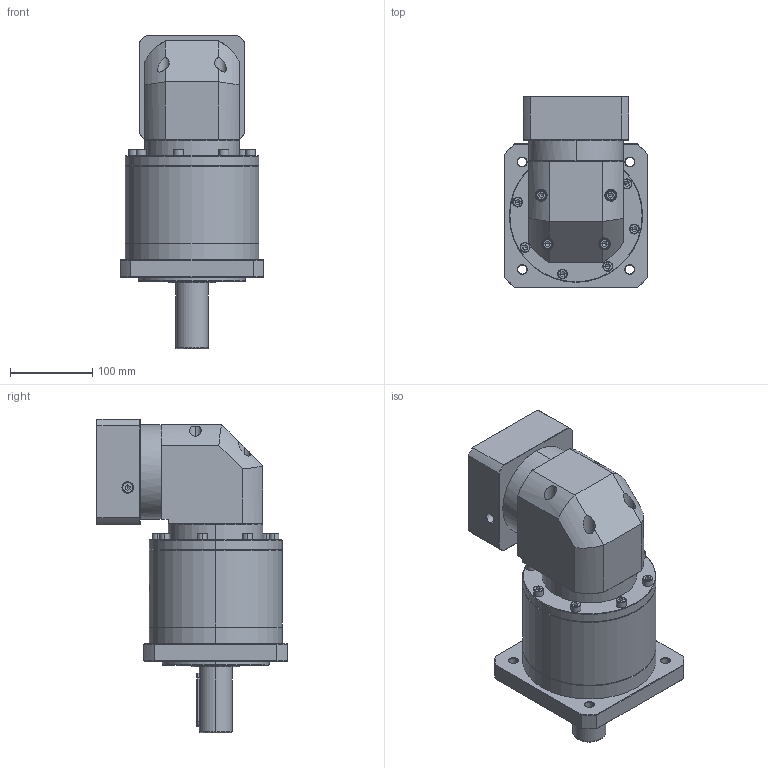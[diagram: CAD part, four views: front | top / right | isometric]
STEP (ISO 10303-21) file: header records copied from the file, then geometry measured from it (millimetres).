
FILE_DESCRIPTION (( 'STEP AP214' ), '1' );
FILE_NAME ('ZFR160A-D40-L3-P2-28-110-145-M8.step', '2023-09-03T09:43:01', ( '' ), ( '' ), 'SwSTEP 2.0', 'SolidWorks 2016', '' );
FILE_SCHEMA (( 'AUTOMOTIVE_DESIGN' ));
Length unit declared in the file: millimetre
Products named in the file (1): ZFR160A-D40-L3-P2-28-110-145-M8
Bounding box: 175 x 232.4 x 381.2 mm (x, y, z)
Volume: 5832422.7 mm3; surface area: 373677.6 mm2
Topology: 6 solids, 6 shells, 2474 faces, 6468 edges, 4118 vertices
Faces by surface type: plane 1147, cylinder 499, bspline 411, cone 371, torus 46
Entity records: 133009 total; most frequent: CARTESIAN_POINT 50369, ORIENTED_EDGE 12828, DIRECTION 9745, EDGE_CURVE 6414, VERTEX_POINT 4118, VECTOR 3447, LINE 3447, AXIS2_PLACEMENT_3D 3149
